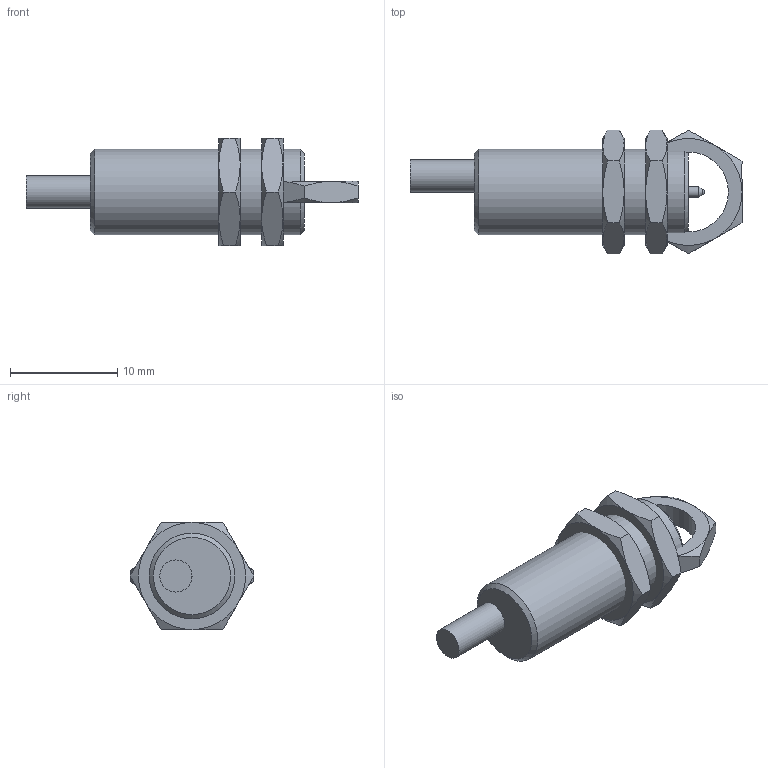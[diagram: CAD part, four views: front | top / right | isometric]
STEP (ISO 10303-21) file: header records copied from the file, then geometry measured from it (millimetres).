
FILE_DESCRIPTION( ( 'Unknown' ), '1' );
FILE_NAME( '//baumerholding.org/frauenfeld/bereich/BECH/Services/me_CAD/Solid Edge/Models/Dokumentationen/MyCom+MS/MyCom B_BS/Vereinfachte Modelle/Neutralformate/MY COM_B.stp', 'Unknown', ( 'Unknown' ), ( 'Unknown' ), 'XStep 1.0', 'Unknown', ' ' );
FILE_SCHEMA( ( 'CONFIG_CONTROL_DESIGN' ) );
Length unit declared in the file: millimetre
Products named in the file (3): Assem1; 1; 2
Bounding box: 31 x 11.55 x 10 mm (x, y, z)
Volume: 2340.4 mm3; surface area: 1883.7 mm2
Topology: 5 solids, 5 shells, 83 faces, 172 edges, 103 vertices
Faces by surface type: cone 42, plane 30, cylinder 9, sphere 2
Full cylindrical faces by diameter (mm): 1 x2, 3 x2, 7.459 x3, 8 x2
Entity records: 962 total; most frequent: CARTESIAN_POINT 243, DIRECTION 122, ORIENTED_EDGE 106, AXIS2_PLACEMENT_3D 58, EDGE_CURVE 53, EDGE_LOOP 42, FACE_OUTER_BOUND 35, VERTEX_POINT 35
